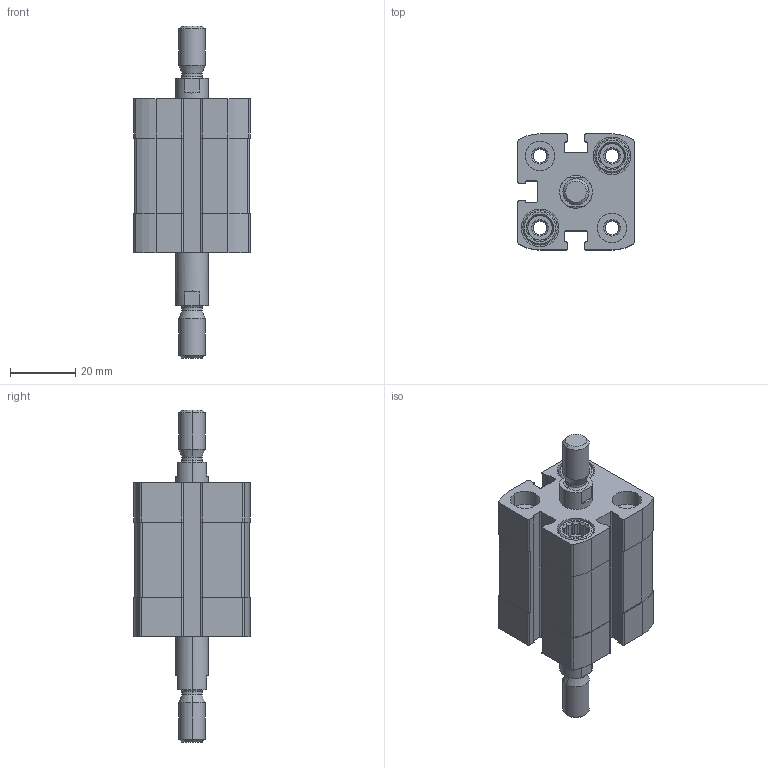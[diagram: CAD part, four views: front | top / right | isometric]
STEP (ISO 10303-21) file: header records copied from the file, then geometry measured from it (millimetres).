
FILE_DESCRIPTION (( 'STEP AP203' ), '1' );
FILE_NAME ('CCN20-10-P.STEP', '2020-06-22T18:39:15', ( '' ), ( '' ), 'SwSTEP 2.0', 'SolidWorks 2019', '' );
FILE_SCHEMA (( 'CONFIG_CONTROL_DESIGN' ));
Length unit declared in the file: millimetre
Products named in the file (1): CCN20-10-P
Bounding box: 35.5 x 35.5 x 101.5 mm (x, y, z)
Volume: 48299.6 mm3; surface area: 21556.7 mm2
Topology: 2 solids, 2 shells, 428 faces, 1122 edges, 730 vertices
Faces by surface type: plane 236, cylinder 140, cone 44, torus 8
Entity records: 13443 total; most frequent: CARTESIAN_POINT 2581, DIRECTION 2318, ORIENTED_EDGE 2244, EDGE_CURVE 1122, AXIS2_PLACEMENT_3D 867, VERTEX_POINT 730, VECTOR 584, LINE 584
